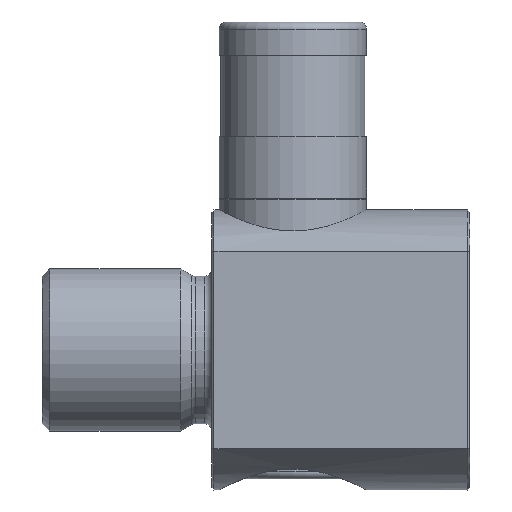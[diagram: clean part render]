
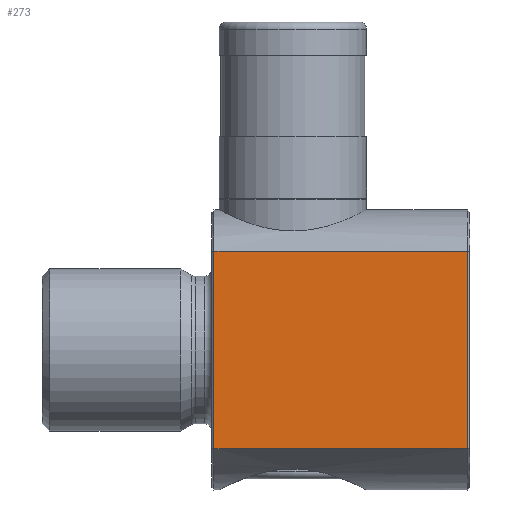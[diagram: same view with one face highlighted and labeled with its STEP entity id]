
A CAD part, left-side view. The second image highlights one B-rep face of the part: STEP entity #273.
In plain terms, the highlighted planar face has unit normal (-1, 0, 0) as drawn and (1, 0, 0) by its records, which use the part's own axes.
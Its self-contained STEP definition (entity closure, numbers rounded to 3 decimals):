
#273=ADVANCED_FACE('',(#434),#435,.F.);
#434=FACE_OUTER_BOUND('',#659,.T.);
#435=PLANE('',#660);
#659=EDGE_LOOP('',(#883,#884,#885,#886));
#660=AXIS2_PLACEMENT_3D('',#887,#888,#889);
#883=ORIENTED_EDGE('',*,*,#1232,.F.);
#884=ORIENTED_EDGE('',*,*,#1233,.T.);
#885=ORIENTED_EDGE('',*,*,#1234,.F.);
#886=ORIENTED_EDGE('',*,*,#1235,.T.);
#887=CARTESIAN_POINT('',(13.5,0.0,29.0));
#888=DIRECTION('',(-1.0,0.,0.0));
#889=DIRECTION('',(0.,1.0,0.0));
#1232=EDGE_CURVE('',#1372,#1373,#1374,.T.);
#1233=EDGE_CURVE('',#1372,#1375,#1376,.T.);
#1234=EDGE_CURVE('',#1377,#1375,#1378,.F.);
#1235=EDGE_CURVE('',#1377,#1373,#1379,.T.);
#1372=VERTEX_POINT('',#1915);
#1373=VERTEX_POINT('',#1916);
#1374=LINE('',#1917,#1918);
#1375=VERTEX_POINT('',#1919);
#1376=LINE('',#1920,#1921);
#1377=VERTEX_POINT('',#1922);
#1378=LINE('',#1923,#1924);
#1379=LINE('',#1925,#1926);
#1915=CARTESIAN_POINT('',(13.5,-13.37,-28.7));
#1916=CARTESIAN_POINT('',(13.5,-13.37,5.7));
#1917=CARTESIAN_POINT('',(13.5,-13.37,-29.0));
#1918=VECTOR('',#2280,1.0);
#1919=CARTESIAN_POINT('',(13.5,13.37,-28.7));
#1920=CARTESIAN_POINT('',(13.5,13.37,-28.7));
#1921=VECTOR('',#2281,1.0);
#1922=CARTESIAN_POINT('',(13.5,13.37,5.7));
#1923=CARTESIAN_POINT('',(13.5,13.37,-29.0));
#1924=VECTOR('',#2282,1.0);
#1925=CARTESIAN_POINT('',(13.5,-13.37,5.7));
#1926=VECTOR('',#2283,1.0);
#2280=DIRECTION('',(0.0,0.0,1.0));
#2281=DIRECTION('',(0.,1.0,0.0));
#2282=DIRECTION('',(0.0,0.0,1.0));
#2283=DIRECTION('',(0.,-1.0,0.0));
